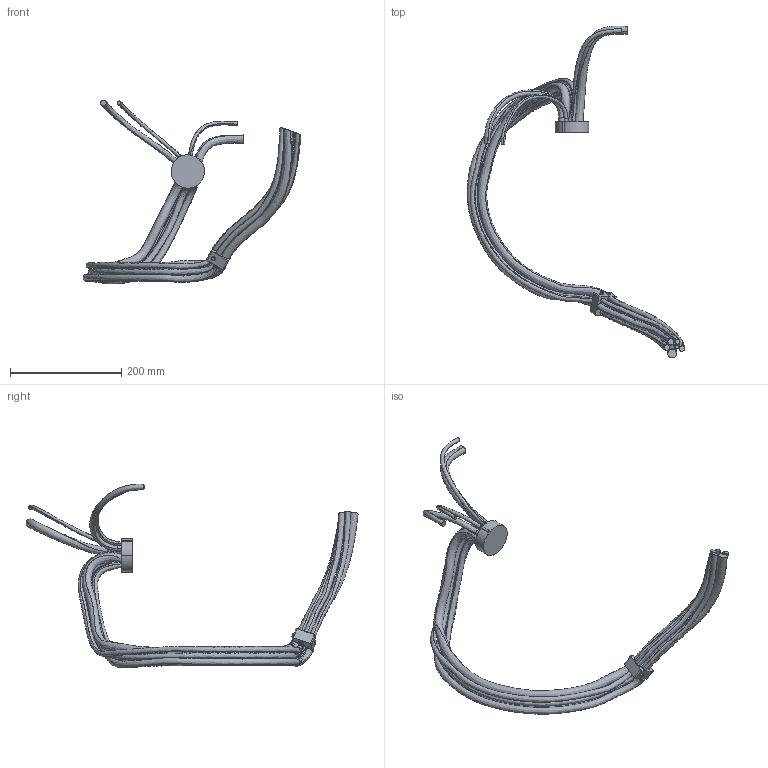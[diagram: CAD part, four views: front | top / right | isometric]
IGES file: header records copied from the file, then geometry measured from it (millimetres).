
Start section: SolidWorks IGES file using analytic representation for surfaces
Global section: file name: C:\Data\SAP_DOC\_2016-Q4_Lättmodeller RobCal\CAD Model_IRB4600_Rev04\IRB4600_45kg-205_IRC5_rev04\IRB4600_45kg-205_IRC5_rev04_IRC5_IGES_j\IRB4600_45kg-205_CABLES_LINK1_rev03.IGS; native system: SolidWorks 2014; preprocessor: SolidWorks 2014; author: SEMAAXM; date: 161206.113203; units: millimetre
Bounding box: 391.46 x 597.26 x 330.33 mm (x, y, z)
Surface area: 235486.2 mm2 (no closed solid volume)
Topology: 0 solids, 0 shells, 85 faces, 2234 edges, 2234 vertices
Faces by surface type: bspline 55, revolution 30
